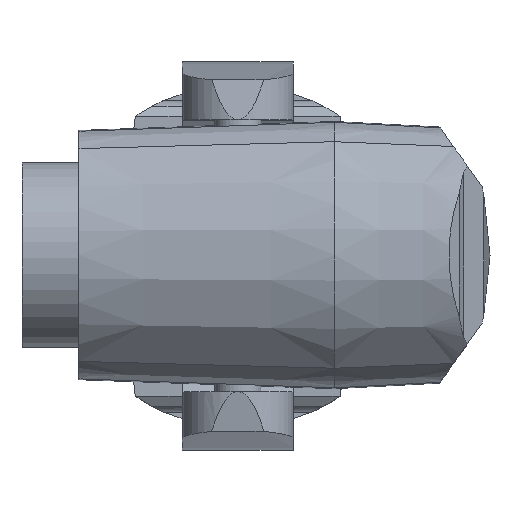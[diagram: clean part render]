
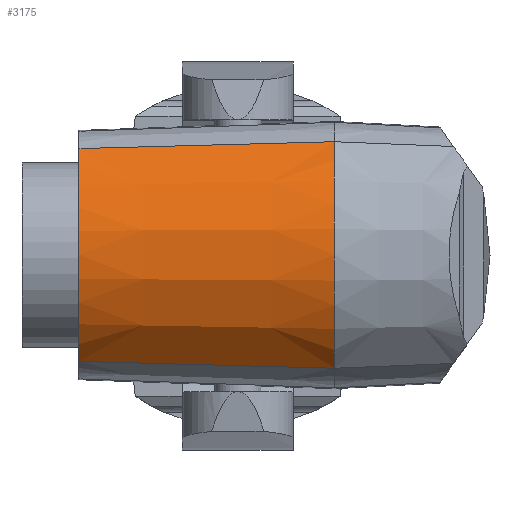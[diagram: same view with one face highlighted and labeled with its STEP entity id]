
A CAD part, top view. The second image highlights one B-rep face of the part: STEP entity #3175.
In plain terms, the highlighted conical face has half-angle 2 degrees and reference radius 152.768 mm.
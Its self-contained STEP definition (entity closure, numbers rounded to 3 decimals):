
#25=CONICAL_SURFACE('',#3508,152.768,0.035);
#183=CIRCLE('',#3476,152.768);
#190=CIRCLE('',#3509,143.56);
#793=ORIENTED_EDGE('',*,*,#1387,.T.);
#794=ORIENTED_EDGE('',*,*,#1429,.F.);
#795=ORIENTED_EDGE('',*,*,#1430,.F.);
#796=ORIENTED_EDGE('',*,*,#1426,.T.);
#1387=EDGE_CURVE('',#1758,#1757,#183,.T.);
#1426=EDGE_CURVE('',#1784,#1758,#2059,.T.);
#1429=EDGE_CURVE('',#1786,#1757,#2060,.T.);
#1430=EDGE_CURVE('',#1784,#1786,#190,.T.);
#1757=VERTEX_POINT('',#5222);
#1758=VERTEX_POINT('',#5224);
#1784=VERTEX_POINT('',#5312);
#1786=VERTEX_POINT('',#5321);
#2059=LINE('',#5311,#2351);
#2060=LINE('',#5320,#2352);
#2351=VECTOR('',#4181,1000.);
#2352=VECTOR('',#4186,1000.);
#2607=EDGE_LOOP('',(#793,#794,#795,#796));
#2840=FACE_BOUND('',#2607,.T.);
#3175=ADVANCED_FACE('',(#2840),#25,.T.);
#3476=AXIS2_PLACEMENT_3D('',#5223,#4104,#4105);
#3508=AXIS2_PLACEMENT_3D('',#5319,#4184,#4185);
#3509=AXIS2_PLACEMENT_3D('',#5322,#4187,#4188);
#4104=DIRECTION('',(0.,-1.,0.));
#4105=DIRECTION('',(1.,0.,0.));
#4181=DIRECTION('',(-0.022,0.999,0.027));
#4184=DIRECTION('',(0.,1.,0.));
#4185=DIRECTION('',(0.,0.,-1.));
#4186=DIRECTION('',(-0.022,0.999,-0.027));
#4187=DIRECTION('',(0.,-1.,0.));
#4188=DIRECTION('',(0.,0.,-1.));
#5222=CARTESIAN_POINT('',(247.362,99.8,-116.916));
#5223=CARTESIAN_POINT('',(345.691,99.8,0.));
#5224=CARTESIAN_POINT('',(247.362,99.8,116.916));
#5311=CARTESIAN_POINT('',(247.362,99.8,116.916));
#5312=CARTESIAN_POINT('',(253.289,-163.865,109.87));
#5319=CARTESIAN_POINT('',(345.691,99.8,0.));
#5320=CARTESIAN_POINT('',(247.362,99.8,-116.916));
#5321=CARTESIAN_POINT('',(253.289,-163.865,-109.87));
#5322=CARTESIAN_POINT('',(345.691,-163.865,0.));
